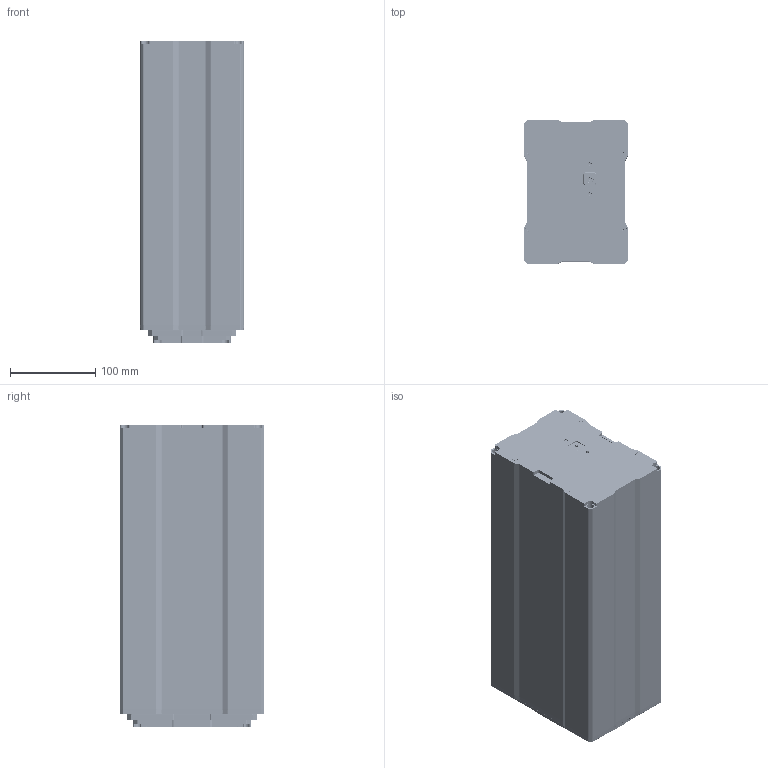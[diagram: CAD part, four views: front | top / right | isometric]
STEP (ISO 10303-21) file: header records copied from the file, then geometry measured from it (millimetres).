
FILE_DESCRIPTION (( 'STEP AP203' ), '1' );
FILE_NAME ('3D_TL54.STEP', '2023-08-25T01:38:22', ( '' ), ( '' ), 'SwSTEP 2.0', 'SolidWorks 2015', '' );
FILE_SCHEMA (( 'CONFIG_CONTROL_DESIGN' ));
Length unit declared in the file: millimetre
Products named in the file (1): 3D_TL54
Bounding box: 121.4 x 169.41 x 355 mm (x, y, z)
Volume: 2175875.2 mm3; surface area: 1236421.6 mm2
Topology: 59 solids, 59 shells, 8083 faces, 20203 edges, 12364 vertices
Faces by surface type: cone 2641, cylinder 2453, plane 2204, bspline 498, torus 259, sphere 28
Entity records: 260036 total; most frequent: CARTESIAN_POINT 67154, DIRECTION 41610, ORIENTED_EDGE 40274, EDGE_CURVE 20137, AXIS2_PLACEMENT_3D 15655, VERTEX_POINT 12363, VECTOR 10300, LINE 10300
